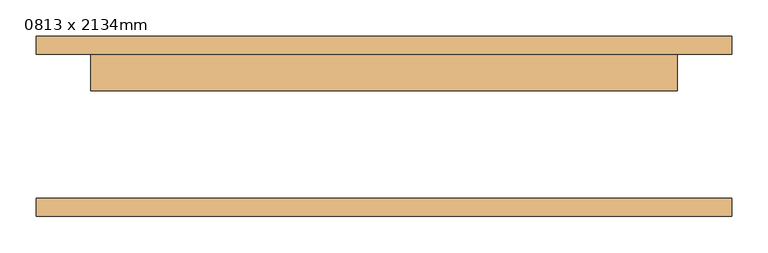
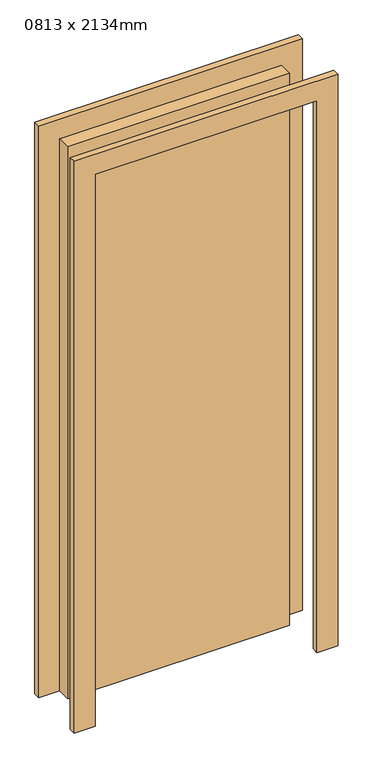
"""IFC4 building model written with IfcOpenShell, lengths in millimetres: door geometry, M_單個嵌平 : 0813 x 2134mm."""

from ifc_helpers import new_model, si_unit, frame, origin, origin_with_axes, place, context, project, spatial, polyline, outline, extrude, source, transform, mapped, element, save


def door_0813_x_2134mm_cbe18f88(model_context):
    return source(origin(), model_context, "Body", "SweptSolid", [
        extrude(outline(polyline([(2210.0, -482.5), (0.0, -482.5), (0.0, -406.5), (2134.0, -406.5), (2134.0, 406.5), (0.0, 406.5), (0.0, 482.5), (2210.0, 482.5), (2210.0, -482.5)])), frame((0.0, 100.0, 0.0), z_axis=(0.0, 1.0, 0.0), x_axis=(0.0, 0.0, 1.0)), (0.0, 0.0, 1.0), 25.0),
        extrude(outline(polyline([(2210.0, 482.5), (2210.0, -482.5), (0.0, -482.5), (0.0, -406.5), (2134.0, -406.5), (2134.0, 406.5), (0.0, 406.5), (0.0, 482.5), (2210.0, 482.5)])), frame((0.0, -125.0, 0.0), z_axis=(0.0, 1.0, 0.0), x_axis=(0.0, 0.0, 1.0)), (0.0, 0.0, 1.0), 25.0),
        extrude(outline(polyline([(406.5, 49.0), (-406.5, 49.0), (-406.5, 100.0), (406.5, 100.0), (406.5, 49.0)])), origin_with_axes(), (0.0, 0.0, 1.0), 2134.0),
    ])


if __name__ == "__main__":
    model = new_model("IFC4")
    model_context = context("Model", 3, world=origin())
    ifc_project = project(units=[si_unit("LENGTHUNIT", "METRE", prefix="MILLI")], contexts=[model_context])
    site = spatial("IfcSite", under=ifc_project)
    building = spatial("IfcBuilding", under=site)
    placement = place(None, origin())
    door_0813_x_2134mm_shape = door_0813_x_2134mm_cbe18f88(model_context)
    element("IfcDoor", 1, ObjectType="M_單個嵌平 : 0813 x 2134mm", at=placement, inside=building, context=model_context, shape_type="MappedRepresentation", body=[
        mapped(door_0813_x_2134mm_shape, transform((0.0, 0.0, 0.0), x_axis=(1.0, 0.0, 0.0), y_axis=(0.0, 1.0, 0.0), z_axis=(0.0, 0.0, 1.0))),
    ])
    save(model, "model.ifc")
